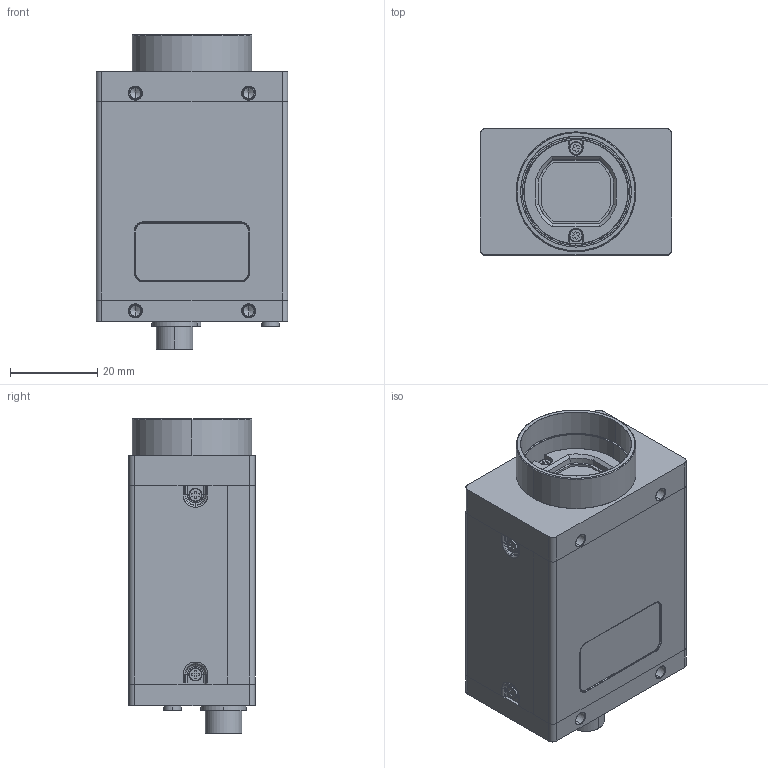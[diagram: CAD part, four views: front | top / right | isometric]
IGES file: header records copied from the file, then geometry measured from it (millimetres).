
Start section: SolidWorks IGES file using analytic representation for surfaces
Global section: file name: F:\mechanical\Documentation\Grasshopper\extracted files\GSR-004-R0.IGS; native system: SolidWorks 2014; preprocessor: SolidWorks 2014; author: gus; date: 131220.134456; units: millimetre
Bounding box: 44 x 29 x 72.2 mm (x, y, z)
Surface area: 13660.9 mm2 (no closed solid volume)
Topology: 0 solids, 0 shells, 469 faces, 4686 edges, 4666 vertices
Faces by surface type: bspline 269, revolution 200
